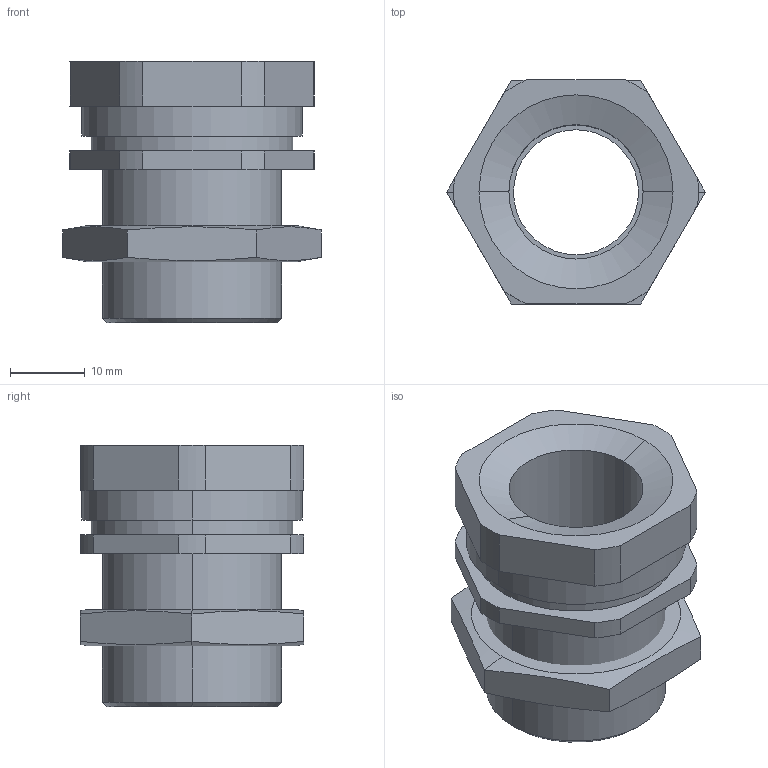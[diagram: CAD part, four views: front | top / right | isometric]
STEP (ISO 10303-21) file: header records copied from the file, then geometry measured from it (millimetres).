
FILE_DESCRIPTION (( 'STEP AP203' ), '1' );
FILE_NAME ('15020006.STEP', '2019-02-15T15:26:05', ( '' ), ( '' ), 'SwSTEP 2.0', 'SolidWorks 2015', '' );
FILE_SCHEMA (( 'CONFIG_CONTROL_DESIGN' ));
Length unit declared in the file: millimetre
Products named in the file (1): 15020006
Bounding box: 34.64 x 30 x 35 mm (x, y, z)
Volume: 12395.3 mm3; surface area: 7872.1 mm2
Topology: 2 solids, 2 shells, 61 faces, 148 edges, 96 vertices
Faces by surface type: plane 27, cylinder 26, cone 8
Entity records: 1957 total; most frequent: CARTESIAN_POINT 406, DIRECTION 320, ORIENTED_EDGE 296, EDGE_CURVE 148, AXIS2_PLACEMENT_3D 122, VERTEX_POINT 96, LINE 76, VECTOR 76
